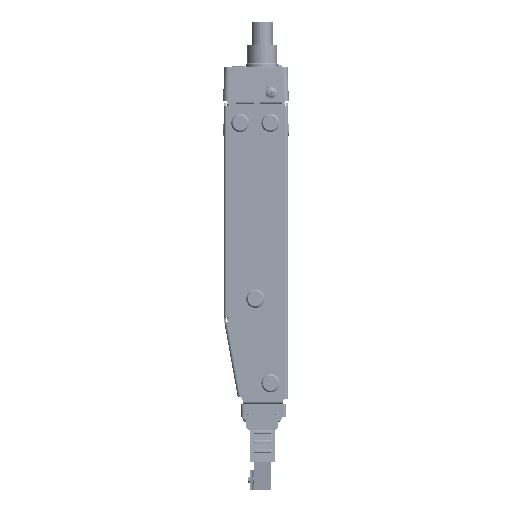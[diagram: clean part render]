
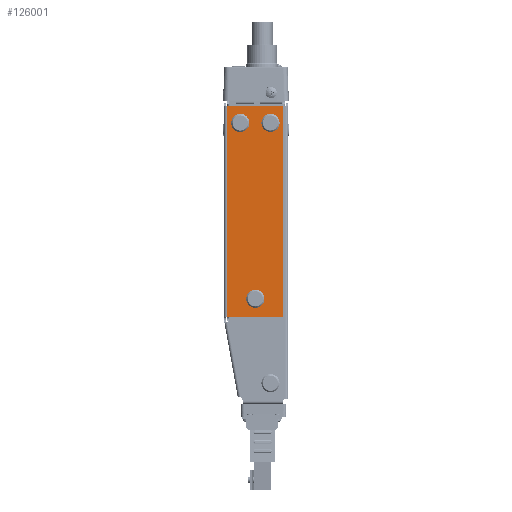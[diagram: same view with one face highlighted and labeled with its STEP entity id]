
A CAD part, left-side view. The second image highlights one B-rep face of the part: STEP entity #126001.
In plain terms, the highlighted planar face has unit normal (-1, 0, 0).
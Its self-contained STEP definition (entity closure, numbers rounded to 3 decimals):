
#5523 = VERTEX_POINT ( 'NONE', #155138 ) ;
#6023 = AXIS2_PLACEMENT_3D ( 'NONE', #8615, #97113, #21416 ) ;
#6141 = FACE_OUTER_BOUND ( 'NONE', #119873, .T. ) ;
#8615 = CARTESIAN_POINT ( 'NONE',  ( -80.01, -7.303, -11.074 ) ) ;
#11535 = CARTESIAN_POINT ( 'NONE',  ( -80.01, 7.938, -15.646 ) ) ;
#21416 = DIRECTION ( 'NONE',  ( 0., 0., -1. ) ) ;
#27456 = CARTESIAN_POINT ( 'NONE',  ( -80.01, -13.652, 0.025 ) ) ;
#28017 = DIRECTION ( 'NONE',  ( 0., 1., 0. ) ) ;
#30695 = VERTEX_POINT ( 'NONE', #110177 ) ;
#34180 = CARTESIAN_POINT ( 'NONE',  ( -80.01, -13.652, -108.623 ) ) ;
#38466 = CARTESIAN_POINT ( 'NONE',  ( -80.01, 14.795, 0.025 ) ) ;
#39468 = DIRECTION ( 'NONE',  ( 1., 0., 0. ) ) ;
#39758 = CARTESIAN_POINT ( 'NONE',  ( -80.01, -13.652, -2.515 ) ) ;
#39996 = FACE_BOUND ( 'NONE', #146859, .T. ) ;
#40283 = ORIENTED_EDGE ( 'NONE', *, *, #86950, .T. ) ;
#45036 = VECTOR ( 'NONE', #114021, 1000. ) ;
#47742 = VECTOR ( 'NONE', #28017, 1000. ) ;
#52944 = CARTESIAN_POINT ( 'NONE',  ( -80.01, -13.652, -108.623 ) ) ;
#54848 = EDGE_CURVE ( 'NONE', #70113, #70113, #130350, .T. ) ;
#57573 = ORIENTED_EDGE ( 'NONE', *, *, #103766, .F. ) ;
#58848 = ORIENTED_EDGE ( 'NONE', *, *, #134538, .T. ) ;
#58934 = CIRCLE ( 'NONE', #82941, 4.572 ) ;
#60625 = DIRECTION ( 'NONE',  ( 0., 0., 1. ) ) ;
#69226 = ORIENTED_EDGE ( 'NONE', *, *, #83777, .F. ) ;
#70113 = VERTEX_POINT ( 'NONE', #11535 ) ;
#70300 = CARTESIAN_POINT ( 'NONE',  ( -80.01, 0.317, -99.67 ) ) ;
#70627 = ORIENTED_EDGE ( 'NONE', *, *, #54848, .T. ) ;
#73577 = EDGE_LOOP ( 'NONE', ( #104358 ) ) ;
#77259 = LINE ( 'NONE', #103602, #47742 ) ;
#78504 = VECTOR ( 'NONE', #153660, 1000. ) ;
#79339 = AXIS2_PLACEMENT_3D ( 'NONE', #85259, #135997, #60625 ) ;
#82882 = DIRECTION ( 'NONE',  ( 0., 0., 1. ) ) ;
#82941 = AXIS2_PLACEMENT_3D ( 'NONE', #70300, #158304, #82882 ) ;
#83523 = AXIS2_PLACEMENT_3D ( 'NONE', #115020, #39468, #127771 ) ;
#83777 = EDGE_CURVE ( 'NONE', #117919, #89569, #145475, .T. ) ;
#85259 = CARTESIAN_POINT ( 'NONE',  ( -80.01, -13.652, 0.025 ) ) ;
#86950 = EDGE_CURVE ( 'NONE', #132275, #89569, #97483, .T. ) ;
#89569 = VERTEX_POINT ( 'NONE', #52944 ) ;
#96655 = VERTEX_POINT ( 'NONE', #143258 ) ;
#97113 = DIRECTION ( 'NONE',  ( 1., 0., 0. ) ) ;
#97483 = LINE ( 'NONE', #34180, #127151 ) ;
#103602 = CARTESIAN_POINT ( 'NONE',  ( -80.01, 16.192, -2.515 ) ) ;
#103766 = EDGE_CURVE ( 'NONE', #132275, #96655, #141611, .T. ) ;
#104358 = ORIENTED_EDGE ( 'NONE', *, *, #134949, .T. ) ;
#107073 = FACE_BOUND ( 'NONE', #73577, .T. ) ;
#108532 = ORIENTED_EDGE ( 'NONE', *, *, #163792, .T. ) ;
#110177 = CARTESIAN_POINT ( 'NONE',  ( -80.01, -7.303, -15.646 ) ) ;
#111603 = CARTESIAN_POINT ( 'NONE',  ( -80.01, 14.795, -108.623 ) ) ;
#112880 = EDGE_LOOP ( 'NONE', ( #108532 ) ) ;
#114021 = DIRECTION ( 'NONE',  ( 0., 0., 1. ) ) ;
#115020 = CARTESIAN_POINT ( 'NONE',  ( -80.01, 7.938, -11.074 ) ) ;
#117919 = VERTEX_POINT ( 'NONE', #39758 ) ;
#119873 = EDGE_LOOP ( 'NONE', ( #69226, #58848, #57573, #40283 ) ) ;
#122481 = DIRECTION ( 'NONE',  ( 0., -1., 0. ) ) ;
#123350 = PLANE ( 'NONE',  #79339 ) ;
#126001 = ADVANCED_FACE ( 'NONE', ( #136732, #107073, #39996, #6141 ), #123350, .T. ) ;
#127151 = VECTOR ( 'NONE', #122481, 1000. ) ;
#127771 = DIRECTION ( 'NONE',  ( 0., 0., -1. ) ) ;
#130350 = CIRCLE ( 'NONE', #83523, 4.572 ) ;
#132275 = VERTEX_POINT ( 'NONE', #111603 ) ;
#134538 = EDGE_CURVE ( 'NONE', #117919, #96655, #77259, .T. ) ;
#134949 = EDGE_CURVE ( 'NONE', #30695, #30695, #142213, .T. ) ;
#135997 = DIRECTION ( 'NONE',  ( -1., 0., 0. ) ) ;
#136732 = FACE_BOUND ( 'NONE', #112880, .T. ) ;
#141611 = LINE ( 'NONE', #38466, #45036 ) ;
#142213 = CIRCLE ( 'NONE', #6023, 4.572 ) ;
#143258 = CARTESIAN_POINT ( 'NONE',  ( -80.01, 14.795, -2.515 ) ) ;
#145475 = LINE ( 'NONE', #27456, #78504 ) ;
#146859 = EDGE_LOOP ( 'NONE', ( #70627 ) ) ;
#153660 = DIRECTION ( 'NONE',  ( 0., 0., -1. ) ) ;
#155138 = CARTESIAN_POINT ( 'NONE',  ( -80.01, 0.317, -95.098 ) ) ;
#158304 = DIRECTION ( 'NONE',  ( 1., 0., 0. ) ) ;
#163792 = EDGE_CURVE ( 'NONE', #5523, #5523, #58934, .T. ) ;
